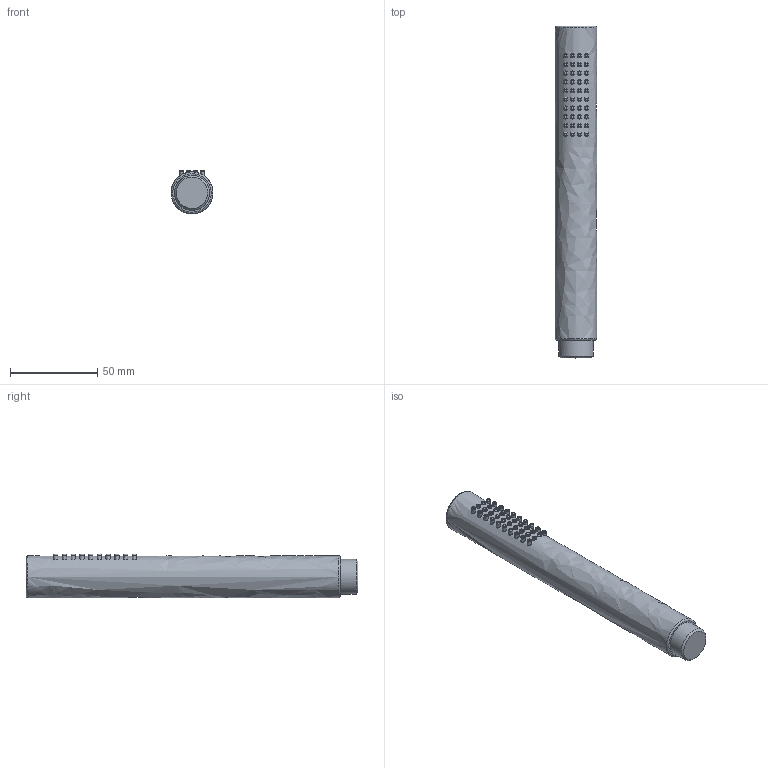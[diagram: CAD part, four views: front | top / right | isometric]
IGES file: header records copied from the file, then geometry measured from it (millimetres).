
Global section: file name: 72D009; native system: Autodesk Inventor 2017; preprocessor: unknown; author: CIANI A.; date: 20190416.104425; units: millimetre
Bounding box: 24 x 190 x 25 mm (x, y, z)
Volume: 84844.4 mm3; surface area: 15514.5 mm2
Topology: 1 solids, 1 shells, 128 faces, 296 edges, 211 vertices
Faces by surface type: bspline 128
